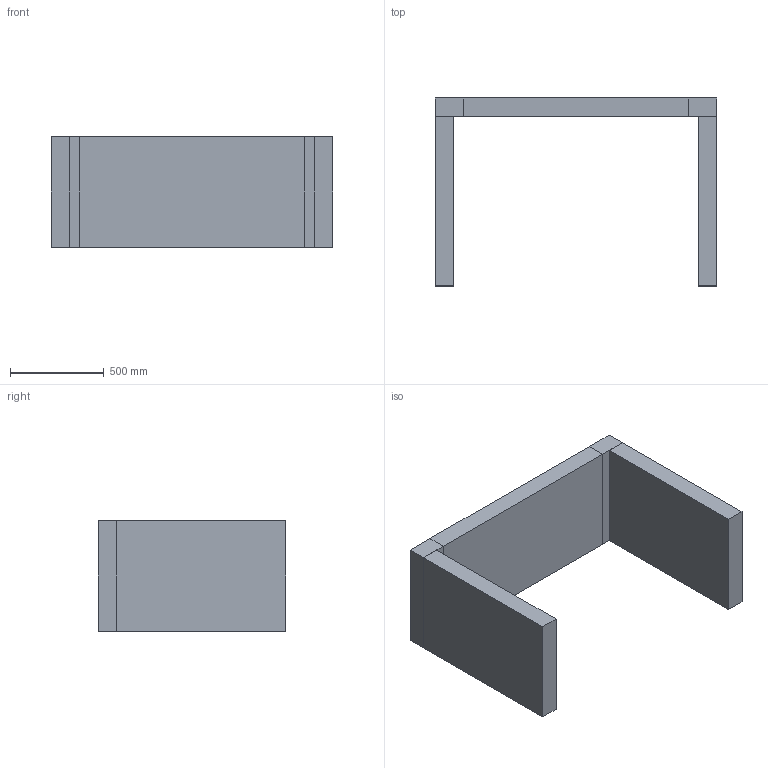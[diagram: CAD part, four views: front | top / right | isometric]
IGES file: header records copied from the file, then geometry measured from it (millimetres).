
Start section: Data from Parasolid IGES Translator 19.0.9, Copyright(c) 2006 Siemens PL M Software. All Rights Reserved.
Global section: file name: HPC-14.igs; native system: By Siemens PLM Incorporated; preprocessor: XPlus GENERIC/IGES 19.0.9; author: Noname; organization: Noname; date: 20190813.115635; units: metre
Bounding box: 1500 x 1000 x 588 mm (x, y, z)
Volume: 194040000 mm3; surface area: 5128800 mm2
Topology: 5 solids, 5 shells, 30 faces, 60 edges, 40 vertices
Faces by surface type: plane 30
